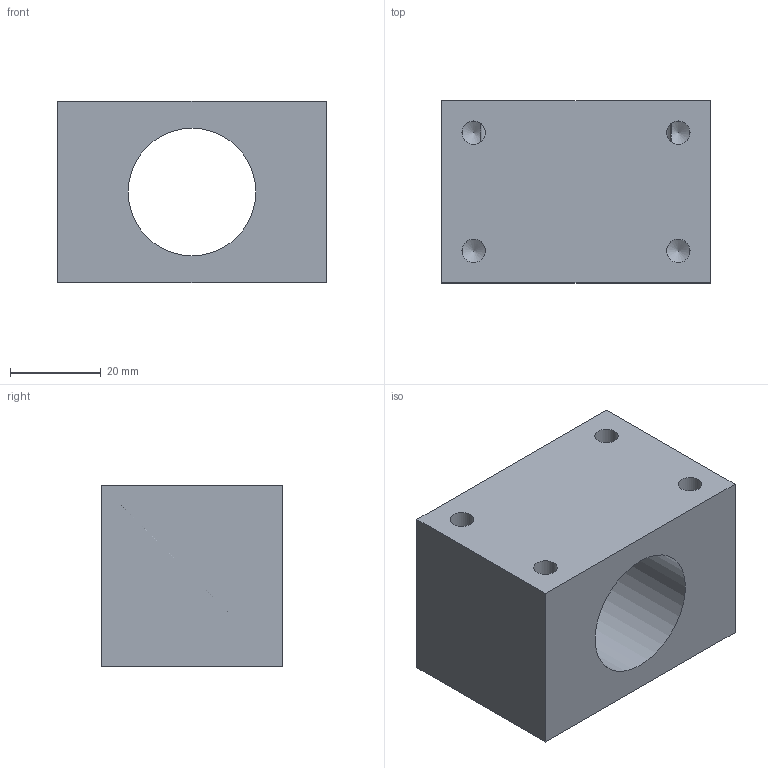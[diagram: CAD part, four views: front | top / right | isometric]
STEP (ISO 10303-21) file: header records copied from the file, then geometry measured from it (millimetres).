
FILE_DESCRIPTION(('STEP AP214'), '1');
FILE_NAME('Äåðæàòåëü ãàéêè ØÂÏ BSH1605_1610', '', ('UNSPECIFIED'), ('UNSPECIFIED'), 'ASCON STEP Converter 1.3', 'ASCON Math Kernel', '');
FILE_SCHEMA(('AUTOMOTIVE_DESIGN { 1 0 10303 214 3 1 1}'));
Length unit declared in the file: millimetre
Bounding box: 59 x 40 x 40 mm (x, y, z)
Volume: 66305.4 mm3; surface area: 17700 mm2
Topology: 1 solids, 1 shells, 27 faces, 72 edges, 44 vertices
Faces by surface type: cylinder 11, cone 10, plane 6
Full cylindrical faces by diameter (mm): 4.134 x6, 5.188 x4, 28.1 x1
Entity records: 1166 total; most frequent: CARTESIAN_POINT 375, DIRECTION 116, ORIENTED_EDGE 80, AXIS2_PLACEMENT_3D 52, EDGE_LOOP 52, EDGE_CURVE 40, VERTEX_POINT 34, COLOUR_RGB 28
